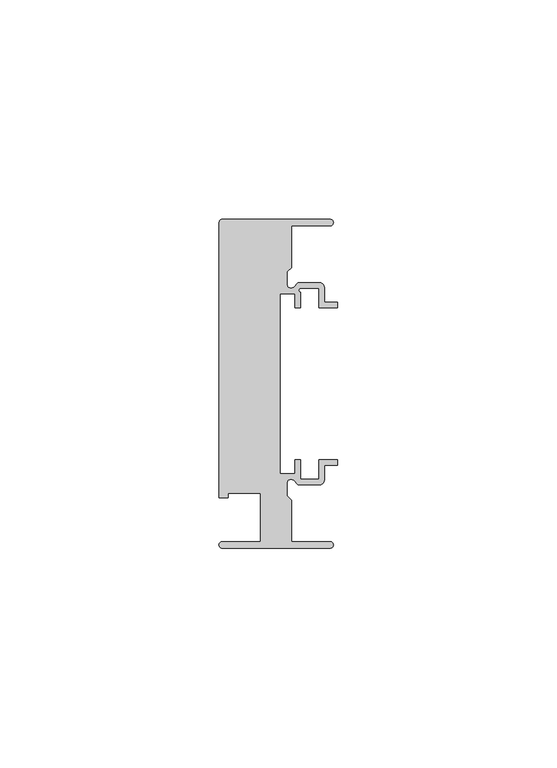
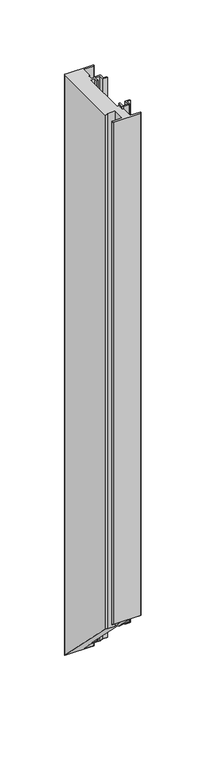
"""IFC4 building model written with IfcOpenShell, lengths in millimetres: member geometry, Прямоугольный импост : 5-AMG-1-Профиль 26Х75 Верх П."""

from ifc_helpers import new_model, si_unit, frame, origin, place, context, project, spatial, polyline, circle_curve, ellipse_curve, source, transform, mapped, element, save
from ifc_brep_helpers import plane_surface, cylinder_surface, revolved_surface, advanced_brep


def member_1d8b72b8(model_context):
    return source(origin(), model_context, "Body", "AdvancedBrep", [
        advanced_brep(
        [(-1.7, -37.5, 0.0), (-1.7, -36.0, 0.0), (-10.5, -36.0, 0.0), (-10.5, -26.5029437, 0.0), (-11.5, -25.5029437, 0.0), (-11.5, -22.6727922, 0.0), (-9.9636039, -22.0363961, 0.0), (-9.0, -23.0, 0.0), (-4.0, -23.0, 0.0), (-3.0, -22.0, 0.0), (-3.0, -18.55, 0.0), (0.0, -18.55, 0.0), (0.0, -17.35, 0.0), (-4.2, -17.35, 0.0), (-4.2, -21.8, 0.0), (-8.45, -21.8, 0.0), (-8.45, -17.35, 0.0), (-9.65, -17.35, 0.0), (-9.65, -20.55, 0.0), (-13.15, -20.55, 0.0), (-13.15, 20.55, 0.0), (-9.65, 20.55, 0.0), (-9.65, 17.35, 0.0), (-8.45, 17.35, 0.0), (-8.45, 20.8470563, 0.0), (-8.5029437, 21.8, 0.0), (-4.2, 21.8, 0.0), (-4.2, 17.35, 0.0), (0.0, 17.35, 0.0), (0.0, 18.55, 0.0), (-3.0, 18.55, 0.0), (-3.0, 22.0, 0.0), (-4.0, 23.0, 0.0), (-9.0, 23.0, 0.0), (-9.9636039, 22.0363961, 0.0), (-11.5, 22.6727922, 0.0), (-11.5, 25.5029437, 0.0), (-10.5, 26.5029437, 0.0), (-10.5, 36.0, 0.0), (-1.7, 36.0, 0.0), (-1.7, 37.5, 0.0), (-26.25, 37.5, 0.0), (-27.0, 36.7244847, 0.0), (-27.0, -26.0, 0.0), (-24.9359877, -26.0, 0.0), (-24.9359877, -25.0, 0.0), (-17.5, -25.0, 0.0), (-17.5, -36.0, 0.0), (-26.25, -36.0, 0.0), (-26.25, -37.5, 0.0), (-1.7, -37.5, -475.4489262), (-1.7, -36.0, -476.9489262), (-10.5, -36.0, -476.9489262), (-10.5, -26.5029437, -486.4459824), (-11.5, -25.5029437, -487.4459824), (-11.5, -22.6727922, -490.276134), (-9.9636039, -22.0363961, -490.9125301), (-9.0, -23.0, -489.9489262), (-4.0, -23.0, -489.9489262), (-3.0, -22.0, -490.9489262), (-3.0, -18.55, -494.3989262), (0.0, -18.55, -494.3989262), (0.0, -17.35, -495.5989262), (-4.2, -17.35, -495.5989262), (-4.2, -21.8, -491.1489262), (-8.45, -21.8, -491.1489262), (-8.45, -17.35, -495.5989262), (-9.65, -17.35, -495.5989262), (-9.65, -20.55, -492.3989262), (-13.15, -20.55, -492.3989262), (-13.15, 20.55, -533.4989262), (-9.65, 20.55, -533.4989262), (-9.65, 17.35, -530.2989262), (-8.45, 17.35, -530.2989262), (-8.45, 20.8470563, -533.7959824), (-8.5029437, 21.8, -534.7489262), (-4.2, 21.8, -534.7489262), (-4.2, 17.35, -530.2989262), (0.0, 17.35, -530.2989262), (0.0, 18.55, -531.4989262), (-3.0, 18.55, -531.4989262), (-3.0, 22.0, -534.9489262), (-4.0, 23.0, -535.9489262), (-9.0, 23.0, -535.9489262), (-9.9636039, 22.0363961, -534.9853223), (-11.5, 22.6727922, -535.6217184), (-11.5, 25.5029437, -538.4518699), (-10.5, 26.5029437, -539.4518699), (-10.5, 36.0, -548.9489262), (-1.7, 36.0, -548.9489262), (-1.7, 37.5, -550.4489262), (-26.25, 37.5, -550.4489262), (-27.0, 36.7244847, -549.6734109), (-27.0, -26.0, -486.9489262), (-24.9359877, -26.0, -486.9489262), (-24.9359877, -25.0, -487.9489262), (-17.5, -25.0, -487.9489262), (-17.5, -36.0, -476.9489262), (-26.25, -36.0, -476.9489262), (-26.25, -37.5, -475.4489262)],
        [
            (0, 1, circle_curve(frame((-1.7, -36.75, 0.0), z_axis=(0.0, 0.0, 1.0), x_axis=(-1.0, 0.0, 0.0)), 0.75)),
            (1, 2),
            (2, 3),
            (3, 4),
            (4, 5),
            (5, 6, circle_curve(frame((-10.6, -22.6727922, 0.0), z_axis=(0.0, 0.0, -1.0), x_axis=(1.0, 0.0, 0.0)), 0.9)),
            (6, 7),
            (7, 8),
            (8, 9, circle_curve(frame((-4.0, -22.0, 0.0), z_axis=(0.0, 0.0, 1.0), x_axis=(1.0, 0.0, 0.0)), 1.0)),
            (9, 10),
            (10, 11),
            (11, 12),
            (12, 13),
            (13, 14),
            (14, 15),
            (15, 16),
            (16, 17),
            (17, 18),
            (18, 19),
            (19, 20),
            (20, 21),
            (21, 22),
            (22, 23),
            (23, 24),
            (24, 25, circle_curve(frame((-8.3343131, 21.3314262, 0.0), z_axis=(0.0, 0.0, -1.0), x_axis=(1.0, 0.0, 0.0)), 0.4979937)),
            (25, 26),
            (26, 27),
            (27, 28),
            (28, 29),
            (29, 30),
            (30, 31),
            (31, 32, circle_curve(frame((-4.0, 22.0, 0.0), z_axis=(0.0, 0.0, 1.0), x_axis=(1.0, 0.0, 0.0)), 1.0)),
            (32, 33),
            (33, 34),
            (34, 35, circle_curve(frame((-10.6, 22.6727922, 0.0), z_axis=(0.0, 0.0, -1.0), x_axis=(1.0, 0.0, 0.0)), 0.9)),
            (35, 36),
            (36, 37),
            (37, 38),
            (38, 39),
            (39, 40, circle_curve(frame((-1.7, 36.75, 0.0), z_axis=(0.0, 0.0, 1.0), x_axis=(-1.0, 0.0, 0.0)), 0.75)),
            (40, 41),
            (41, 42, circle_curve(frame((-26.2240507, 36.7244847, 0.0), z_axis=(0.0, 0.0, 1.0), x_axis=(1.0, 0.0, 0.0)), 0.7759493)),
            (42, 43),
            (43, 44),
            (44, 45),
            (45, 46),
            (46, 47),
            (47, 48),
            (48, 49, circle_curve(frame((-26.25, -36.75, 0.0), z_axis=(0.0, 0.0, 1.0), x_axis=(-1.0, 0.0, 0.0)), 0.75)),
            (49, 0),
            (0, 50),
            (50, 51, ellipse_curve(frame((-1.7, -36.75, -476.1989262), z_axis=(0.0, 0.7071067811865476, 0.7071067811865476), x_axis=(0.0, -0.7071067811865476, 0.7071067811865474)), 1.0606602, 0.75)),
            (51, 1),
            (51, 52),
            (52, 2),
            (52, 53),
            (53, 3),
            (53, 54),
            (54, 4),
            (54, 55),
            (55, 5),
            (55, 56, ellipse_curve(frame((-10.6, -22.6727922, -490.276134), z_axis=(0.0, -0.7071067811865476, -0.7071067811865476), x_axis=(0.0, 0.7071067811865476, -0.7071067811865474)), 1.2727922, 0.9)),
            (56, 6),
            (56, 57),
            (57, 7),
            (57, 58),
            (58, 8),
            (58, 59, ellipse_curve(frame((-4.0, -22.0, -490.9489262), z_axis=(0.0, 0.7071067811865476, 0.7071067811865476), x_axis=(0.0, -0.7071067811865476, 0.7071067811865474)), 1.4142136, 1.0)),
            (59, 9),
            (59, 60),
            (60, 10),
            (60, 61),
            (61, 11),
            (61, 62),
            (62, 12),
            (62, 63),
            (63, 13),
            (63, 64),
            (64, 14),
            (64, 65),
            (65, 15),
            (65, 66),
            (66, 16),
            (66, 67),
            (67, 17),
            (67, 68),
            (68, 18),
            (68, 69),
            (69, 19),
            (69, 70),
            (70, 20),
            (70, 71),
            (71, 21),
            (71, 72),
            (72, 22),
            (72, 73),
            (73, 23),
            (73, 74),
            (74, 24),
            (74, 75, ellipse_curve(frame((-8.3343131, 21.3314262, -534.2803524), z_axis=(0.0, -0.7071067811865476, -0.7071067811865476), x_axis=(0.0, 0.7071067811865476, -0.7071067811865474)), 0.7042694, 0.4979937)),
            (75, 25),
            (75, 76),
            (76, 26),
            (76, 77),
            (77, 27),
            (77, 78),
            (78, 28),
            (78, 79),
            (79, 29),
            (79, 80),
            (80, 30),
            (80, 81),
            (81, 31),
            (81, 82, ellipse_curve(frame((-4.0, 22.0, -534.9489262), z_axis=(0.0, 0.7071067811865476, 0.7071067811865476), x_axis=(0.0, -0.7071067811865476, 0.7071067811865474)), 1.4142136, 1.0)),
            (82, 32),
            (82, 83),
            (83, 33),
            (83, 84),
            (84, 34),
            (84, 85, ellipse_curve(frame((-10.6, 22.6727922, -535.6217184), z_axis=(0.0, -0.7071067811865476, -0.7071067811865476), x_axis=(0.0, 0.7071067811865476, -0.7071067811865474)), 1.2727922, 0.9)),
            (85, 35),
            (85, 86),
            (86, 36),
            (86, 87),
            (87, 37),
            (87, 88),
            (88, 38),
            (88, 89),
            (89, 39),
            (89, 90, ellipse_curve(frame((-1.7, 36.75, -549.6989262), z_axis=(0.0, 0.7071067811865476, 0.7071067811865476), x_axis=(0.0, -0.7071067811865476, 0.7071067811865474)), 1.0606602, 0.75)),
            (90, 40),
            (90, 91),
            (91, 41),
            (91, 92, ellipse_curve(frame((-26.2240507, 36.7244847, -549.6734109), z_axis=(0.0, 0.7071067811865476, 0.7071067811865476), x_axis=(0.0, -0.7071067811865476, 0.7071067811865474)), 1.097358, 0.7759493)),
            (92, 42),
            (92, 93),
            (93, 43),
            (93, 94),
            (94, 44),
            (94, 95),
            (95, 45),
            (95, 96),
            (96, 46),
            (96, 97),
            (97, 47),
            (97, 98),
            (98, 48),
            (98, 99, ellipse_curve(frame((-26.25, -36.75, -476.1989262), z_axis=(0.0, 0.7071067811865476, 0.7071067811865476), x_axis=(0.0, -0.7071067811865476, 0.7071067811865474)), 1.0606602, 0.75)),
            (99, 49),
            (99, 50),
        ],
        [
            plane_surface(frame((0.0, -45.8897094, 0.0), z_axis=(0.0, 0.0, 1.0), x_axis=(-1.0, 0.0, 0.0))),
            cylinder_surface(frame((-1.7, -36.75, 0.0), z_axis=(0.0, 0.0, 1.0), x_axis=(-1.0, 0.0, 0.0)), 0.75),
            plane_surface(frame((-1.7, -36.0, 0.0), z_axis=(0.0, 1.0, 0.0), x_axis=(0.0, 0.0, -1.0))),
            plane_surface(frame((-10.5, -36.0, 0.0), z_axis=(1.0, 0.0, 0.0), x_axis=(0.0, 0.0, -1.0))),
            plane_surface(frame((-10.5, -26.5029437, 0.0), z_axis=(0.7071067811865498, 0.7071067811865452, 0.0), x_axis=(0.0, 0.0, -1.0))),
            plane_surface(frame((-11.5, -25.5029437, 0.0), z_axis=(1.0, 0.0, 0.0), x_axis=(0.0, 0.0, -1.0))),
            revolved_surface(polyline([(-9.7, -22.6727922, -491.17613399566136), (-9.7, -22.6727922, 0.0)]), (-10.6, -22.6727922, 0.0), (0.0, 0.0, -1.0)),
            plane_surface(frame((-9.9636039, -22.0363961, 0.0), z_axis=(-0.7071067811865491, -0.707106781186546, 0.0), x_axis=(0.0, 0.0, -1.0))),
            plane_surface(frame((-9.0, -23.0, 0.0), z_axis=(0.0, -1.0, 0.0), x_axis=(0.0, 0.0, -1.0))),
            cylinder_surface(frame((-4.0, -22.0, 0.0), z_axis=(0.0, 0.0, 1.0), x_axis=(1.0, 0.0, 0.0)), 1.0),
            plane_surface(frame((-3.0, -22.0, 0.0), z_axis=(1.0, 0.0, 0.0), x_axis=(0.0, 0.0, -1.0))),
            plane_surface(frame((-3.0, -18.55, 0.0), z_axis=(0.0, -1.0, 0.0), x_axis=(0.0, 0.0, -1.0))),
            plane_surface(frame((0.0, -18.55, 0.0), z_axis=(1.0, 0.0, 0.0), x_axis=(0.0, 0.0, -1.0))),
            plane_surface(frame((0.0, -17.35, 0.0), z_axis=(0.0, 1.0, 0.0), x_axis=(0.0, 0.0, -1.0))),
            plane_surface(frame((-4.2, -17.35, 0.0), z_axis=(-1.0, 0.0, 0.0), x_axis=(0.0, 0.0, -1.0))),
            plane_surface(frame((-4.2, -21.8, 0.0), z_axis=(0.0, 1.0, 0.0), x_axis=(0.0, 0.0, -1.0))),
            plane_surface(frame((-8.45, -21.8, 0.0), z_axis=(1.0, 0.0, 0.0), x_axis=(0.0, 0.0, -1.0))),
            plane_surface(frame((-8.45, -17.35, 0.0), z_axis=(0.0, 1.0, 0.0), x_axis=(0.0, 0.0, -1.0))),
            plane_surface(frame((-9.65, -17.35, 0.0), z_axis=(-1.0, 0.0, 0.0), x_axis=(0.0, 0.0, -1.0))),
            plane_surface(frame((-9.65, -20.55, 0.0), z_axis=(0.0, 1.0, 0.0), x_axis=(0.0, 0.0, -1.0))),
            plane_surface(frame((-13.15, -20.55, 0.0), z_axis=(1.0, 0.0, 0.0), x_axis=(0.0, 0.0, -1.0))),
            plane_surface(frame((-13.15, 20.55, 0.0), z_axis=(0.0, -1.0, 0.0), x_axis=(0.0, 0.0, -1.0))),
            plane_surface(frame((-9.65, 20.55, 0.0), z_axis=(-1.0, 0.0, 0.0), x_axis=(0.0, 0.0, -1.0))),
            plane_surface(frame((-9.65, 17.35, 0.0), z_axis=(0.0, -1.0, 0.0), x_axis=(0.0, 0.0, -1.0))),
            plane_surface(frame((-8.45, 17.35, 0.0), z_axis=(1.0, 0.0, 0.0), x_axis=(0.0, 0.0, -1.0))),
            revolved_surface(polyline([(-7.836319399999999, 21.3314262, -534.7783460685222), (-7.836319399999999, 21.3314262, 0.0)]), (-8.3343131, 21.3314262, 0.0), (0.0, 0.0, -1.0)),
            plane_surface(frame((-8.5029437, 21.8, 0.0), z_axis=(0.0, -1.0, 0.0), x_axis=(0.0, 0.0, -1.0))),
            plane_surface(frame((-4.2, 21.8, 0.0), z_axis=(-1.0, 0.0, 0.0), x_axis=(0.0, 0.0, -1.0))),
            plane_surface(frame((-4.2, 17.35, 0.0), z_axis=(0.0, -1.0, 0.0), x_axis=(0.0, 0.0, -1.0))),
            plane_surface(frame((0.0, 17.35, 0.0), z_axis=(1.0, 0.0, 0.0), x_axis=(0.0, 0.0, -1.0))),
            plane_surface(frame((0.0, 18.55, 0.0), z_axis=(0.0, 1.0, 0.0), x_axis=(0.0, 0.0, -1.0))),
            plane_surface(frame((-3.0, 18.55, 0.0), z_axis=(1.0, 0.0, 0.0), x_axis=(0.0, 0.0, -1.0))),
            cylinder_surface(frame((-4.0, 22.0, 0.0), z_axis=(0.0, 0.0, 1.0), x_axis=(1.0, 0.0, 0.0)), 1.0),
            plane_surface(frame((-4.0, 23.0, 0.0), z_axis=(0.0, 1.0, 0.0), x_axis=(0.0, 0.0, -1.0))),
            plane_surface(frame((-9.0, 23.0, 0.0), z_axis=(-0.7071067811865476, 0.7071067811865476, 0.0), x_axis=(0.0, 0.0, -1.0))),
            revolved_surface(polyline([(-9.7, 22.6727922, -536.5217183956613), (-9.7, 22.6727922, 0.0)]), (-10.6, 22.6727922, 0.0), (0.0, 0.0, -1.0)),
            plane_surface(frame((-11.5, 22.6727922, 0.0), z_axis=(1.0, 0.0, 0.0), x_axis=(0.0, 0.0, -1.0))),
            plane_surface(frame((-11.5, 25.5029437, 0.0), z_axis=(0.7071067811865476, -0.7071067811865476, 0.0), x_axis=(0.0, 0.0, -1.0))),
            plane_surface(frame((-10.5, 26.5029437, 0.0), z_axis=(1.0, 0.0, 0.0), x_axis=(0.0, 0.0, -1.0))),
            plane_surface(frame((-10.5, 36.0, 0.0), z_axis=(0.0, -1.0, 0.0), x_axis=(0.0, 0.0, -1.0))),
            cylinder_surface(frame((-1.7, 36.75, 0.0), z_axis=(0.0, 0.0, 1.0), x_axis=(-1.0, 0.0, 0.0)), 0.75),
            plane_surface(frame((-1.7, 37.5, 0.0), z_axis=(0.0, 1.0, 0.0), x_axis=(0.0, 0.0, -1.0))),
            cylinder_surface(frame((-26.2240507, 36.7244847, 0.0), z_axis=(0.0, 0.0, 1.0), x_axis=(1.0, 0.0, 0.0)), 0.7759493),
            plane_surface(frame((-27.0, 36.7244847, 0.0), z_axis=(-1.0, 0.0, 0.0), x_axis=(0.0, 0.0, -1.0))),
            plane_surface(frame((-27.0, -26.0, 0.0), z_axis=(0.0, -1.0, 0.0), x_axis=(0.0, 0.0, -1.0))),
            plane_surface(frame((-24.9359877, -26.0, 0.0), z_axis=(1.0, 0.0, 0.0), x_axis=(0.0, 0.0, -1.0))),
            plane_surface(frame((-24.9359877, -25.0, 0.0), z_axis=(0.0, -1.0, 0.0), x_axis=(0.0, 0.0, -1.0))),
            plane_surface(frame((-17.5, -25.0, 0.0), z_axis=(-1.0, 0.0, 0.0), x_axis=(0.0, 0.0, -1.0))),
            plane_surface(frame((-17.5, -36.0, 0.0), z_axis=(0.0, 1.0, 0.0), x_axis=(0.0, 0.0, -1.0))),
            cylinder_surface(frame((-26.25, -36.75, 0.0), z_axis=(0.0, 0.0, 1.0), x_axis=(-1.0, 0.0, 0.0)), 0.75),
            plane_surface(frame((-26.25, -37.5, 0.0), z_axis=(0.0, -1.0, 0.0), x_axis=(0.0, 0.0, -1.0))),
            plane_surface(frame((304.8, 0.0, -512.9489262), z_axis=(0.0, -0.7071067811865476, -0.7071067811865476), x_axis=(0.0, -0.7071067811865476, 0.7071067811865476))),
        ],
        [
            (0, [[1, 2, 3, 4, 5, 6, 7, 8, 9, 10, 11, 12, 13, 14, 15, 16, 17, 18, 19, 20, 21, 22, 23, 24, 25, 26, 27, 28, 29, 30, 31, 32, 33, 34, 35, 36, 37, 38, 39, 40, 41, 42, 43, 44, 45, 46, 47, 48, 49, 50]]),
            (1, [[-1, 51, 52, 53]]),
            (2, [[-2, -53, 54, 55]]),
            (3, [[-3, -55, 56, 57]]),
            (4, [[-4, -57, 58, 59]]),
            (5, [[-5, -59, 60, 61]]),
            (6, [[-6, -61, 62, 63]]),
            (7, [[-7, -63, 64, 65]]),
            (8, [[-8, -65, 66, 67]]),
            (9, [[-9, -67, 68, 69]]),
            (10, [[-10, -69, 70, 71]]),
            (11, [[-11, -71, 72, 73]]),
            (12, [[-12, -73, 74, 75]]),
            (13, [[-13, -75, 76, 77]]),
            (14, [[-14, -77, 78, 79]]),
            (15, [[-15, -79, 80, 81]]),
            (16, [[-16, -81, 82, 83]]),
            (17, [[-17, -83, 84, 85]]),
            (18, [[-18, -85, 86, 87]]),
            (19, [[-19, -87, 88, 89]]),
            (20, [[-20, -89, 90, 91]]),
            (21, [[-21, -91, 92, 93]]),
            (22, [[-22, -93, 94, 95]]),
            (23, [[-23, -95, 96, 97]]),
            (24, [[-24, -97, 98, 99]]),
            (25, [[-25, -99, 100, 101]]),
            (26, [[-26, -101, 102, 103]]),
            (27, [[-27, -103, 104, 105]]),
            (28, [[-28, -105, 106, 107]]),
            (29, [[-29, -107, 108, 109]]),
            (30, [[-30, -109, 110, 111]]),
            (31, [[-31, -111, 112, 113]]),
            (32, [[-32, -113, 114, 115]]),
            (33, [[-33, -115, 116, 117]]),
            (34, [[-34, -117, 118, 119]]),
            (35, [[-35, -119, 120, 121]]),
            (36, [[-36, -121, 122, 123]]),
            (37, [[-37, -123, 124, 125]]),
            (38, [[-38, -125, 126, 127]]),
            (39, [[-39, -127, 128, 129]]),
            (40, [[-40, -129, 130, 131]]),
            (41, [[-41, -131, 132, 133]]),
            (42, [[-42, -133, 134, 135]]),
            (43, [[-43, -135, 136, 137]]),
            (44, [[-44, -137, 138, 139]]),
            (45, [[-45, -139, 140, 141]]),
            (46, [[-46, -141, 142, 143]]),
            (47, [[-47, -143, 144, 145]]),
            (48, [[-48, -145, 146, 147]]),
            (49, [[-49, -147, 148, 149]]),
            (50, [[-50, -149, 150, -51]]),
            (51, [[-150, -148, -146, -144, -142, -140, -138, -136, -134, -132, -130, -128, -126, -124, -122, -120, -118, -116, -114, -112, -110, -108, -106, -104, -102, -100, -98, -96, -94, -92, -90, -88, -86, -84, -82, -80, -78, -76, -74, -72, -70, -68, -66, -64, -62, -60, -58, -56, -54, -52]]),
        ],
    ),
    ])


if __name__ == "__main__":
    model = new_model("IFC4")
    model_context = context("Model", 3, world=origin())
    ifc_project = project(units=[si_unit("LENGTHUNIT", "METRE", prefix="MILLI")], contexts=[model_context])
    site = spatial("IfcSite", under=ifc_project)
    building = spatial("IfcBuilding", under=site)
    placement = place(None, origin())
    member_shape = member_1d8b72b8(model_context)
    element("IfcMember", 1, ObjectType="Прямоугольный импост : 5-AMG-1-Профиль 26Х75 Верх П", at=placement, inside=building, context=model_context, shape_type="MappedRepresentation", body=[
        mapped(member_shape, transform((0.0, 0.0, 0.0), x_axis=(1.0, 0.0, 0.0), y_axis=(0.0, 1.0, 0.0), z_axis=(0.0, 0.0, 1.0))),
    ])
    save(model, "model.ifc")
